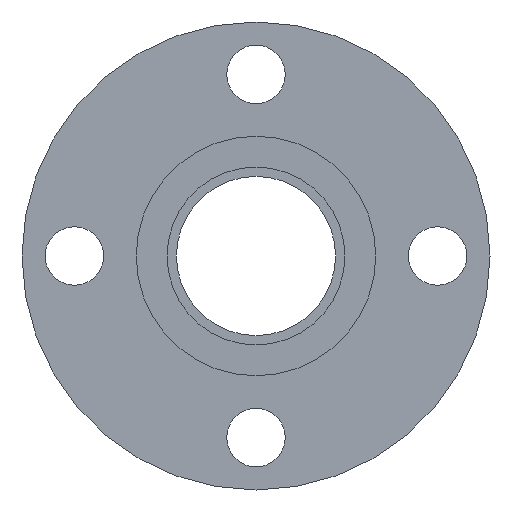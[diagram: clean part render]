
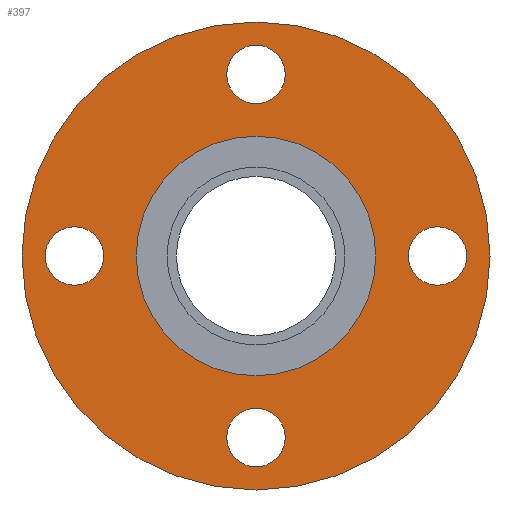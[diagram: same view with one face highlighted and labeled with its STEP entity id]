
A CAD part, left-side view. The second image highlights one B-rep face of the part: STEP entity #397.
In plain terms, the highlighted planar face has unit normal (-1, 0, 0).
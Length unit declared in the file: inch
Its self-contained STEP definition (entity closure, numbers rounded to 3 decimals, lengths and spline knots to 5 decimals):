
#49=FACE_BOUND('',#103,.T.);
#50=FACE_BOUND('',#104,.T.);
#51=FACE_BOUND('',#105,.T.);
#52=FACE_BOUND('',#106,.T.);
#53=FACE_BOUND('',#107,.T.);
#64=PLANE('',#463);
#80=FACE_OUTER_BOUND('',#102,.T.);
#102=EDGE_LOOP('',(#321,#322));
#103=EDGE_LOOP('',(#323));
#104=EDGE_LOOP('',(#324));
#105=EDGE_LOOP('',(#325));
#106=EDGE_LOOP('',(#326));
#107=EDGE_LOOP('',(#327,#328));
#141=CIRCLE('',#424,0.3125);
#143=CIRCLE('',#427,0.3125);
#145=CIRCLE('',#430,0.3125);
#147=CIRCLE('',#433,0.3125);
#166=CIRCLE('',#461,1.28);
#167=CIRCLE('',#462,1.28);
#168=CIRCLE('',#464,2.5);
#169=CIRCLE('',#465,2.5);
#177=VERTEX_POINT('',#640);
#179=VERTEX_POINT('',#646);
#181=VERTEX_POINT('',#652);
#183=VERTEX_POINT('',#658);
#202=VERTEX_POINT('',#710);
#203=VERTEX_POINT('',#711);
#204=VERTEX_POINT('',#716);
#205=VERTEX_POINT('',#717);
#214=EDGE_CURVE('',#177,#177,#141,.T.);
#217=EDGE_CURVE('',#179,#179,#143,.T.);
#220=EDGE_CURVE('',#181,#181,#145,.T.);
#223=EDGE_CURVE('',#183,#183,#147,.T.);
#246=EDGE_CURVE('',#202,#203,#166,.T.);
#247=EDGE_CURVE('',#203,#202,#167,.T.);
#249=EDGE_CURVE('',#204,#205,#168,.T.);
#250=EDGE_CURVE('',#205,#204,#169,.T.);
#321=ORIENTED_EDGE('',*,*,#249,.F.);
#322=ORIENTED_EDGE('',*,*,#250,.F.);
#323=ORIENTED_EDGE('',*,*,#214,.T.);
#324=ORIENTED_EDGE('',*,*,#217,.T.);
#325=ORIENTED_EDGE('',*,*,#220,.T.);
#326=ORIENTED_EDGE('',*,*,#223,.T.);
#327=ORIENTED_EDGE('',*,*,#246,.T.);
#328=ORIENTED_EDGE('',*,*,#247,.T.);
#397=ADVANCED_FACE('',(#80,#49,#50,#51,#52,#53),#64,.T.);
#424=AXIS2_PLACEMENT_3D('',#642,#496,#497);
#427=AXIS2_PLACEMENT_3D('',#648,#503,#504);
#430=AXIS2_PLACEMENT_3D('',#654,#510,#511);
#433=AXIS2_PLACEMENT_3D('',#660,#517,#518);
#461=AXIS2_PLACEMENT_3D('',#712,#577,#578);
#462=AXIS2_PLACEMENT_3D('',#713,#579,#580);
#463=AXIS2_PLACEMENT_3D('',#715,#582,#583);
#464=AXIS2_PLACEMENT_3D('',#718,#584,#585);
#465=AXIS2_PLACEMENT_3D('',#719,#586,#587);
#496=DIRECTION('center_axis',(1.,0.,0.));
#497=DIRECTION('ref_axis',(0.,1.,0.));
#503=DIRECTION('center_axis',(1.,0.,0.));
#504=DIRECTION('ref_axis',(0.,0.,-1.));
#510=DIRECTION('center_axis',(1.,0.,0.));
#511=DIRECTION('ref_axis',(0.,-1.,0.));
#517=DIRECTION('center_axis',(1.,0.,0.));
#518=DIRECTION('ref_axis',(0.,0.,1.));
#577=DIRECTION('center_axis',(1.,0.,0.));
#578=DIRECTION('ref_axis',(0.,0.,-1.));
#579=DIRECTION('center_axis',(1.,0.,0.));
#580=DIRECTION('ref_axis',(0.,0.,-1.));
#582=DIRECTION('center_axis',(-1.,0.,0.));
#583=DIRECTION('ref_axis',(0.,0.,1.));
#584=DIRECTION('center_axis',(1.,0.,0.));
#585=DIRECTION('ref_axis',(0.,0.,-1.));
#586=DIRECTION('center_axis',(1.,0.,0.));
#587=DIRECTION('ref_axis',(0.,0.,-1.));
#640=CARTESIAN_POINT('',(-0.6825,-0.3125,-1.94));
#642=CARTESIAN_POINT('Origin',(-0.6825,0.,-1.94));
#646=CARTESIAN_POINT('',(-0.6825,-1.94,0.3125));
#648=CARTESIAN_POINT('Origin',(-0.6825,-1.94,0.));
#652=CARTESIAN_POINT('',(-0.6825,0.3125,1.94));
#654=CARTESIAN_POINT('Origin',(-0.6825,0.,1.94));
#658=CARTESIAN_POINT('',(-0.6825,1.94,-0.3125));
#660=CARTESIAN_POINT('Origin',(-0.6825,1.94,0.));
#710=CARTESIAN_POINT('',(-0.6825,1.28,0.));
#711=CARTESIAN_POINT('',(-0.6825,-1.28,0.));
#712=CARTESIAN_POINT('Origin',(-0.6825,0.,
0.));
#713=CARTESIAN_POINT('Origin',(-0.6825,0.,
0.));
#715=CARTESIAN_POINT('Origin',(-0.6825,2.5,0.));
#716=CARTESIAN_POINT('',(-0.6825,2.5,0.));
#717=CARTESIAN_POINT('',(-0.6825,-2.5,0.));
#718=CARTESIAN_POINT('Origin',(-0.6825,0.,0.));
#719=CARTESIAN_POINT('Origin',(-0.6825,0.,0.));
